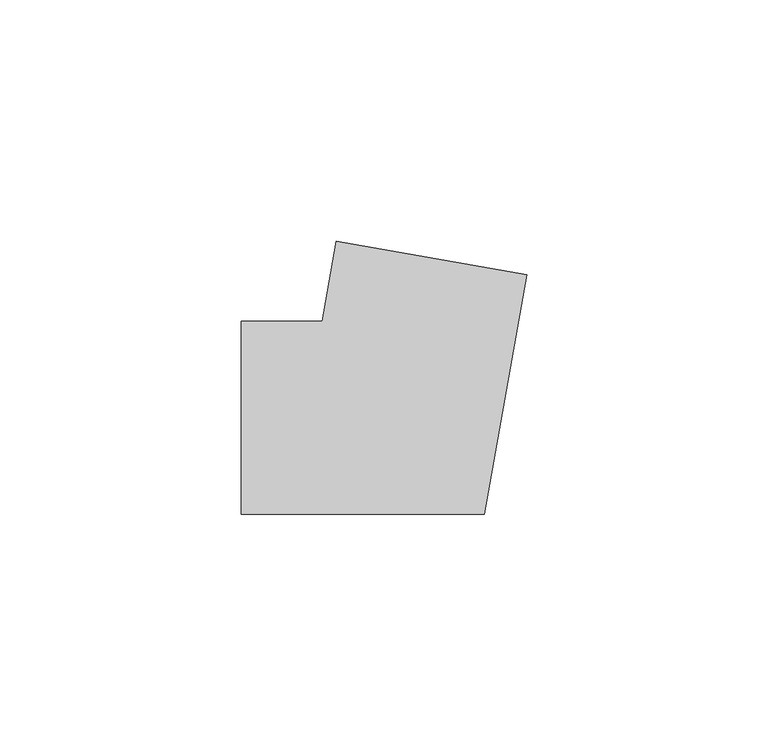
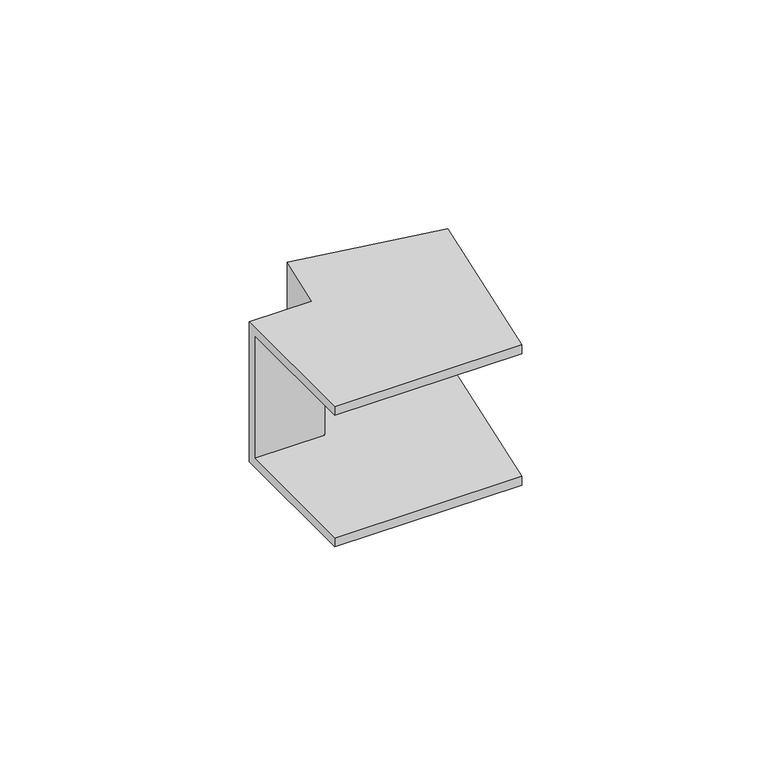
"""IFC4 building model written with IfcOpenShell, lengths in millimetres: cable carrier fitting geometry, КНС_УголВнешний_ILC_DKC : Угол внешний_DKC."""

import ifcopenshell
import ifcopenshell.guid

model = None  # the IFC model being written
_history = None  # IfcOwnerHistory: only IFC2X3 demands one
_inside = {}  # id of a spatial element -> (the spatial element, [elements in it])
_under = {}  # id of a project, library or spatial element -> (it, [spatial elements below it])
_declared = {}  # id of a project -> (the project, [libraries it declares])
_typed = {}  # id of a type object -> (the type object, [elements of that type])
_made_of = {}  # id of a material, layer set ... -> (it, [elements and type objects made of it])


def new_model(schema):
    """Start an empty IFC model of exactly this schema.

    Asked for "IFC4X3", IfcOpenShell would pick the latest addendum, in which some entities
    have other attributes; the version numbers below select the first issue.
    IFC2X3 requires an IfcOwnerHistory on every rooted entity: one is made here for all.
    """
    global model, _history
    if schema == "IFC4X3":
        model = ifcopenshell.file(schema_version=(4, 3, 0, 0))
    else:
        model = ifcopenshell.file(schema=schema)
    _inside.clear()
    _under.clear()
    _declared.clear()
    _typed.clear()
    _made_of.clear()
    _history = None
    if model.schema == "IFC2X3":
        org = make("IfcOrganization", Name="unknown")
        user = make(
            "IfcPersonAndOrganization",
            ThePerson=make("IfcPerson", FamilyName="unknown"),
            TheOrganization=org,
        )
        app = make(
            "IfcApplication",
            ApplicationDeveloper=org,
            Version="unknown",
            ApplicationFullName="unknown",
            ApplicationIdentifier="unknown",
        )
        _history = make(
            "IfcOwnerHistory",
            OwningUser=user,
            OwningApplication=app,
            ChangeAction="ADDED",
            CreationDate=0,
        )
    return model


def make(cls, **values):
    """One entity of the class cls with the attributes given. An attribute that is None is left unset."""
    return model.create_entity(
        cls, **{name: value for name, value in values.items() if value is not None}
    )


def rooted(cls, **values):
    """An entity with a GlobalId (a new one), such as an element, a storey or a relation."""
    return make(cls, GlobalId=ifcopenshell.guid.new(), OwnerHistory=_history, **values)


def si_unit(unit_type, name, prefix=None):
    """IfcSIUnit, for example si_unit("LENGTHUNIT", "METRE", prefix="MILLI")."""
    return make("IfcSIUnit", UnitType=unit_type, Prefix=prefix, Name=name)


def assignment(units):
    """IfcUnitAssignment: the units of a project."""
    return None if units is None else make("IfcUnitAssignment", Units=units)


def point(xyz):
    """IfcCartesianPoint."""
    return None if xyz is None else make("IfcCartesianPoint", Coordinates=xyz)


def direction(xyz):
    """IfcDirection."""
    return None if xyz is None else make("IfcDirection", DirectionRatios=xyz)


def frame(location, z_axis=None, x_axis=None):
    """IfcAxis2Placement3D, a coordinate frame: its origin and axes. An axis left out is left unset."""
    return make(
        "IfcAxis2Placement3D",
        Location=point(location),
        Axis=direction(z_axis),
        RefDirection=direction(x_axis),
    )


def origin():
    """The frame at (0, 0, 0) with its axes left unset."""
    return frame((0.0, 0.0, 0.0))


def place(relative_to, where):
    """IfcLocalPlacement: puts the frame where relative to a parent placement (None: the world)."""
    return make(
        "IfcLocalPlacement", PlacementRelTo=relative_to, RelativePlacement=where
    )


def context(
    kind, dimensions, precision=None, world=None, true_north=None, identifier=None
):
    """IfcGeometricRepresentationContext, for example the 3D "Model" context."""
    return make(
        "IfcGeometricRepresentationContext",
        ContextIdentifier=identifier,
        ContextType=kind,
        CoordinateSpaceDimension=dimensions,
        Precision=precision,
        WorldCoordinateSystem=world,
        TrueNorth=true_north,
    )


def project(units=None, contexts=None):
    """IfcProject with its units and contexts."""
    return rooted(
        "IfcProject",
        Name="project",
        RepresentationContexts=contexts,
        UnitsInContext=assignment(units),
    )


def spatial(cls, under=None, at=None, **own):
    """A site, building, storey or space (cls), placed at a placement, below another one or the project."""
    s = rooted(cls, ObjectPlacement=at, **own)
    if under is not None:
        _under.setdefault(under.id(), (under, []))[1].append(s)
    return s


def faces_of(points, faces, orient=None, outer=None):
    """IfcFace entities. A face is a list of loops; a loop is a list of indices into points, from 0.

    orient and outer hold one flag for each loop. By default every Orientation is true, the
    first loop of a face is its IfcFaceOuterBound and the others are IfcFaceBound.
    """
    made = []
    for i, loops in enumerate(faces):
        bounds = []
        for j, loop in enumerate(loops):
            is_outer = j == 0 if outer is None else outer[i][j]
            bounds.append(
                make(
                    "IfcFaceOuterBound" if is_outer else "IfcFaceBound",
                    Bound=make("IfcPolyLoop", Polygon=[points[k] for k in loop]),
                    Orientation=True if orient is None else orient[i][j],
                )
            )
        made.append(make("IfcFace", Bounds=bounds))
    return made


def faceted_brep(points, faces, orient=None, outer=None, voids=None):
    """IfcFacetedBrep: a solid bounded by flat faces; with voids (closed shells), ...WithVoids."""
    shared = [point(p) for p in points]
    hull = make("IfcClosedShell", CfsFaces=faces_of(shared, faces, orient, outer))
    if voids is None:
        return make("IfcFacetedBrep", Outer=hull)
    return make(
        "IfcFacetedBrepWithVoids",
        Outer=hull,
        Voids=[
            make(cls, CfsFaces=faces_of(shared, fs, o, b)) for cls, fs, o, b in voids
        ],
    )


def shape(context_of_items, identifier, shape_type, items):
    """IfcShapeRepresentation: the items that make up one representation, for example the "Body"."""
    return make(
        "IfcShapeRepresentation",
        ContextOfItems=context_of_items,
        RepresentationIdentifier=identifier,
        RepresentationType=shape_type,
        Items=items,
    )


def source(mapping_origin, context_of_items, identifier, shape_type, items):
    """IfcRepresentationMap: a shape defined once, which mapped items show again and again."""
    return make(
        "IfcRepresentationMap",
        MappingOrigin=mapping_origin,
        MappedRepresentation=shape(context_of_items, identifier, shape_type, items),
    )


def transform(
    local_origin,
    x_axis=None,
    y_axis=None,
    z_axis=None,
    scale=None,
    scale2=None,
    scale3=None,
    uniform=True,
):
    """IfcCartesianTransformationOperator3D, or its non-uniform kind. x_axis, y_axis, z_axis: its Axis1, 2, 3."""
    if uniform:
        return make(
            "IfcCartesianTransformationOperator3D",
            Axis1=direction(x_axis),
            Axis2=direction(y_axis),
            LocalOrigin=point(local_origin),
            Scale=scale,
            Axis3=direction(z_axis),
        )
    return make(
        "IfcCartesianTransformationOperator3DnonUniform",
        Axis1=direction(x_axis),
        Axis2=direction(y_axis),
        LocalOrigin=point(local_origin),
        Scale=scale,
        Axis3=direction(z_axis),
        Scale2=scale2,
        Scale3=scale3,
    )


def mapped(mapping_source, mapping_target):
    """IfcMappedItem: shows the shape of a source again, moved by a transform."""
    return make(
        "IfcMappedItem", MappingSource=mapping_source, MappingTarget=mapping_target
    )


def made_of(thing, what):
    """Note that an element or type object is made of a material, layer set ...; save() writes the relation."""
    if what is not None:
        _made_of.setdefault(what.id(), (what, []))[1].append(thing)
    return thing


def element(
    cls,
    number,
    at=None,
    inside=None,
    cuts=None,
    type_object=None,
    material=None,
    context=None,
    identifier="Body",
    shape_type=None,
    held_by="IfcProductDefinitionShape",
    body=None,
    shapes=None,
    **own,
):
    """One element of the class cls, such as IfcWall. Its Tag is "e" and its number.

    at: its placement. inside: the storey or other place that contains it. cuts: it is an
    opening in that element (IfcRelVoidsElement). A single representation is given by context,
    identifier, shape_type and body (its items); several are given by shapes. held_by: the class
    of the entity that holds the representations. save() writes the other relations.
    """
    e = rooted(cls, Tag="e%d" % number, ObjectPlacement=at, **own)
    if body is not None:
        shapes = [shape(context, identifier, shape_type, body)]
    if shapes is not None:
        e.Representation = make(held_by, Representations=shapes)
    if inside is not None:
        _inside.setdefault(inside.id(), (inside, []))[1].append(e)
    if cuts is not None:
        rooted(
            "IfcRelVoidsElement", RelatingBuildingElement=cuts, RelatedOpeningElement=e
        )
    if type_object is not None:
        _typed.setdefault(type_object.id(), (type_object, []))[1].append(e)
    return made_of(e, material)


def aggregate(whole, parts):
    """IfcRelAggregates: a whole, such as a stair, and the parts it consists of."""
    return rooted("IfcRelAggregates", RelatingObject=whole, RelatedObjects=parts)


def save(model, path):
    """Write the relations noted so far, then the file.

    IfcRelAggregates (storeys below a building ...), IfcRelContainedInSpatialStructure (elements
    in a storey), IfcRelDefinesByType, IfcRelAssociatesMaterial and IfcRelDeclares: one each for
    every whole, place, type object, material and project.
    """
    for whole, parts in _under.values():
        aggregate(whole, parts)
    for where, things in _inside.values():
        rooted(
            "IfcRelContainedInSpatialStructure",
            RelatedElements=things,
            RelatingStructure=where,
        )
    for kind, things in _typed.values():
        rooted("IfcRelDefinesByType", RelatedObjects=things, RelatingType=kind)
    for what, things in _made_of.values():
        rooted("IfcRelAssociatesMaterial", RelatedObjects=things, RelatingMaterial=what)
    for by, libraries in _declared.values():
        rooted("IfcRelDeclares", RelatingContext=by, RelatedDefinitions=libraries)
    model.write(path)


def cable_carrier_fitting_899eefb4(model_context):
    return source(origin(), model_context, "Body", "Brep", [
        faceted_brep([(-33.5639852, 20.0, 20.0), (-33.5639852, 20.0, -20.0), (-33.5639852, -20.0, -20.0), (-33.5639852, -20.0, -17.5), (-33.5639852, 17.5, -17.5), (-33.5639852, 17.5, 17.5), (-33.5639852, -20.0, 17.5), (-33.5639852, -20.0, 20.0), (-13.8678302, 36.5270364, 20.0), (25.5244799, 29.5811093, 20.0), (25.5244799, 29.5811093, 17.5), (-11.4058108, 36.092916, 17.5), (-11.4058108, 36.092916, -17.5), (25.5244799, 29.5811093, -17.5), (25.5244799, 29.5811093, -20.0), (-13.8678302, 36.5270364, -20.0), (-16.7819926, 20.0, 20.0), (-16.7819926, 20.0, -20.0), (16.7819926, -20.0, -20.0), (16.7819926, -20.0, -17.5), (-14.6842435, 17.5, -17.5), (-14.6842435, 17.5, 17.5), (16.7819926, -20.0, 17.5), (16.7819926, -20.0, 20.0)], [[[0, 1, 2, 3, 4, 5, 6, 7]], [[8, 9, 10, 11, 12, 13, 14, 15]], [[1, 0, 16, 17]], [[2, 1, 17, 15, 14, 18]], [[3, 2, 18, 19]], [[4, 3, 19, 13, 12, 20]], [[5, 4, 20, 21]], [[6, 5, 21, 11, 10, 22]], [[7, 6, 22, 23]], [[0, 7, 23, 9, 8, 16]], [[17, 16, 8, 15]], [[19, 18, 14, 13]], [[21, 20, 12, 11]], [[23, 22, 10, 9]]]),
    ])


if __name__ == "__main__":
    model = new_model("IFC4")
    model_context = context("Model", 3, world=origin())
    ifc_project = project(units=[si_unit("LENGTHUNIT", "METRE", prefix="MILLI")], contexts=[model_context])
    site = spatial("IfcSite", under=ifc_project)
    building = spatial("IfcBuilding", under=site)
    placement = place(None, origin())
    cable_carrier_fitting_shape = cable_carrier_fitting_899eefb4(model_context)
    element("IfcCableCarrierFitting", 1, ObjectType="КНС_УголВнешний_ILC_DKC : Угол внешний_DKC", at=placement, inside=building, context=model_context, shape_type="MappedRepresentation", body=[
        mapped(cable_carrier_fitting_shape, transform((0.0, 0.0, 0.0), x_axis=(1.0, 0.0, 0.0), y_axis=(0.0, 1.0, 0.0), z_axis=(0.0, 0.0, 1.0))),
    ])
    save(model, "model.ifc")
